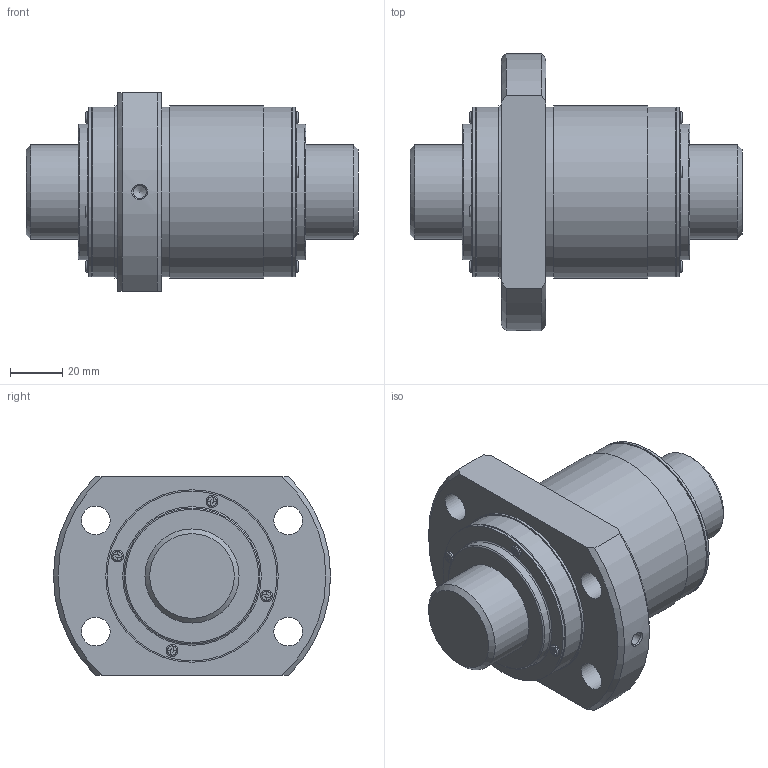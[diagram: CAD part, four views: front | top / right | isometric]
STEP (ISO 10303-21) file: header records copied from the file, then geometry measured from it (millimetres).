
FILE_DESCRIPTION(/* description */ ('STEP AP203'),/* implementation_level */ '2;1');
FILE_NAME(/* name */ 'BLK3636-7.2ZZ+127LC7T_000',/* time_stamp */ '2025-06-11T06:30:42+02:00',/* author */ ('License CC BY-ND 4.0'),/* organization */ ('CADENAS'),/* preprocessor_version */ 'ST-DEVELOPER v19.3',/* originating_system */ 'PARTsolutions',/* authorisation */ ' ');
FILE_SCHEMA (('CONFIG_CONTROL_DESIGN'));
Length unit declared in the file: millimetre
Products named in the file (3): BLK3636-7.2ZZ+127LC7T_000; BLK3636-7.20ZZ0 Shaft; BLK3636-7.2ZZ Nut
Assembly tree (2 placements, depth 2):
  BLK3636-7.2ZZ+127LC7T_000
    BLK3636-7.20ZZ0 Shaft
    BLK3636-7.2ZZ Nut
Bounding box: 127 x 106 x 76 mm (x, y, z)
Volume: 383859.5 mm3; surface area: 59892.7 mm2
Topology: 2 solids, 2 shells, 207 faces, 517 edges, 339 vertices
Faces by surface type: plane 127, cylinder 58, torus 12, cone 10
Full cylindrical faces by diameter (mm): 4.54 x8, 4.917 x1, 11 x4, 36 x2, 52 x2, 65 x5, 66 x2
Entity records: 6038 total; most frequent: CARTESIAN_POINT 1055, DIRECTION 1020, ORIENTED_EDGE 946, EDGE_CURVE 473, AXIS2_PLACEMENT_3D 346, VERTEX_POINT 338, LINE 328, VECTOR 328
